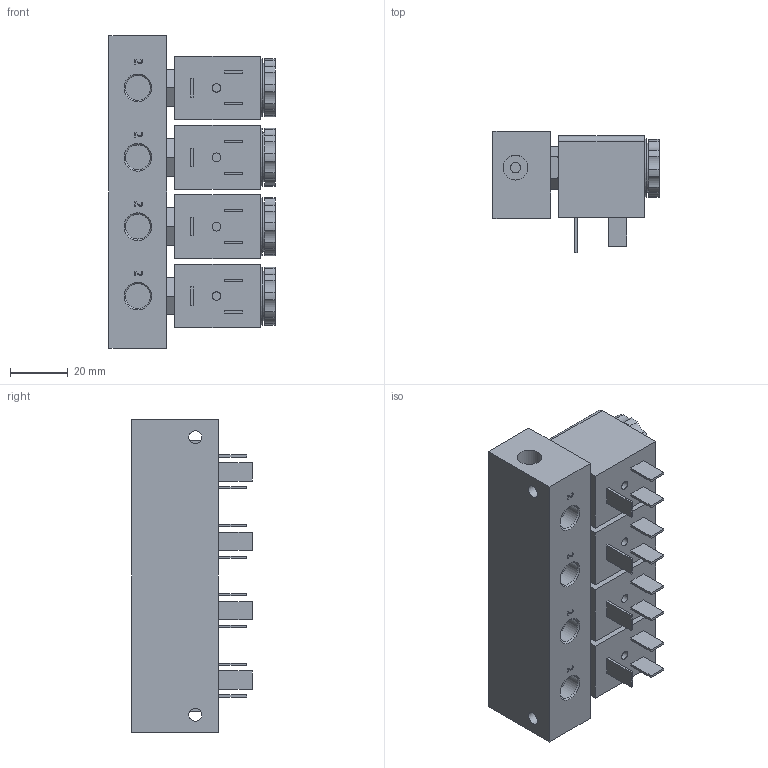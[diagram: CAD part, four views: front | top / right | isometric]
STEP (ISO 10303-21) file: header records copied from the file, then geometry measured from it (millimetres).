
FILE_DESCRIPTION (( 'STEP AP214' ), '1' );
FILE_NAME ('MSO-18-310_4-HN-412_Airtec.step', '2018-12-14T07:41:24', ( '' ), ( '' ), 'SwSTEP 2.0', 'SolidWorks 2010', '' );
FILE_SCHEMA (( 'AUTOMOTIVE_DESIGN' ));
Length unit declared in the file: millimetre
Products named in the file (3): Volumenkörper4; Volumenkörper1; MSO-18-310_4-HN-412_Airtec
Assembly tree (5 placements, depth 2):
  MSO-18-310_4-HN-412_Airtec
    Volumenkörper4
    Volumenkörper1  x4
Bounding box: 57.45 x 41.7 x 108 mm (x, y, z)
Volume: 142354.7 mm3; surface area: 43922.7 mm2
Topology: 5 solids, 9 shells, 640 faces, 1526 edges, 998 vertices
Faces by surface type: plane 284, cylinder 188, bspline 104, cone 52, torus 12
Full cylindrical faces by diameter (mm): 3 x4, 3.5 x2, 4.134 x4, 4.5 x2, 5 x4, 6.647 x4, 7.4 x2, 8 x4, 8.15 x4, 8.2 x4, 8.566 x6, 9.04 x8, 10.5 x4, 13.2 x4, 16.6 x4, 17.041 x4, 20.1 x4
Entity records: 20651 total; most frequent: CARTESIAN_POINT 4927, ORIENTED_EDGE 2432, DIRECTION 2266, EDGE_CURVE 1216, AXIS2_PLACEMENT_3D 862, VERTEX_POINT 850, EDGE_LOOP 748, FACE_OUTER_BOUND 635
